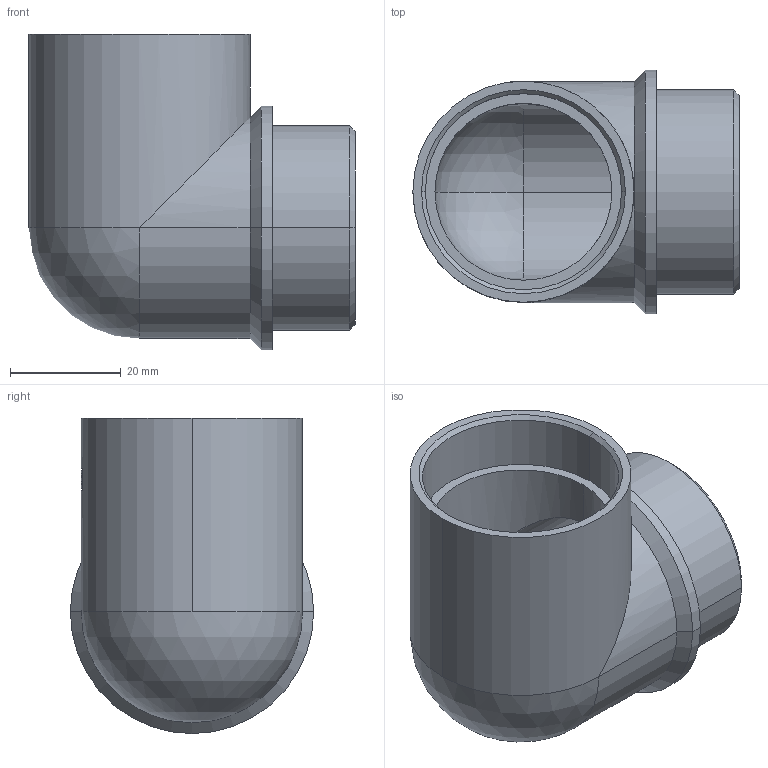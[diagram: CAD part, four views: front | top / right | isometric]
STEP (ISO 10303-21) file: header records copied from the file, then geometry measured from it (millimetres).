
FILE_DESCRIPTION (( 'STEP AP203' ), '1' );
FILE_NAME ('21.029 PA.STEP', '2005-11-22T07:59:55', ( ' ' ), ( '' ), 'SwSTEP 2.0', 'SolidWorks 2005278', '' );
FILE_SCHEMA (( 'CONFIG_CONTROL_DESIGN' ));
Length unit declared in the file: millimetre
Products named in the file (1): 21.029 PA
Bounding box: 59 x 44 x 57 mm (x, y, z)
Volume: 28403.4 mm3; surface area: 17355.2 mm2
Topology: 1 solids, 1 shells, 65 faces, 163 edges, 102 vertices
Faces by surface type: plane 38, cylinder 18, cone 6, sphere 3
Entity records: 2013 total; most frequent: CARTESIAN_POINT 398, DIRECTION 326, ORIENTED_EDGE 318, EDGE_CURVE 159, AXIS2_PLACEMENT_3D 125, VERTEX_POINT 101, VECTOR 76, LINE 76
